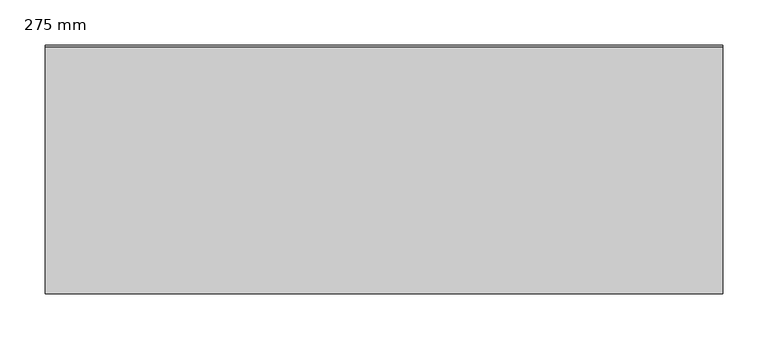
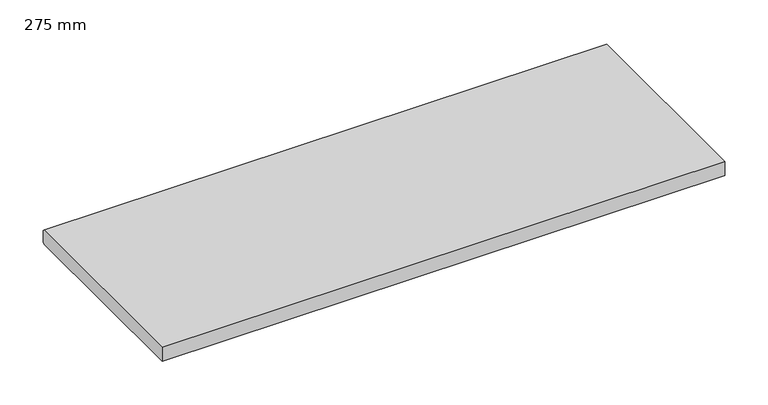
"""IFC4 building model written with IfcOpenShell, lengths in millimetres: proxy geometry, 400_35_NS_vensterbank : 275 mm."""

from ifc_helpers import new_model, si_unit, frame, origin, place, context, project, spatial, polyline, outline, extrude, source, transform, mapped, element, save


def proxy_275_mm_4d599cdf(model_context):
    return source(origin(), model_context, "Body", "SweptSolid", [
        extrude(outline(polyline([(0.0, 0.0), (0.0, 20.0), (273.0, 20.0), (275.0, 18.0), (275.0, 2.0), (273.0, 0.0), (0.0, 0.0)])), frame((-375.0, 0.0, 0.0), z_axis=(1.0, 0.0, 0.0), x_axis=(0.0, 1.0, 0.0)), (0.0, 0.0, 1.0), 750.0),
    ])


if __name__ == "__main__":
    model = new_model("IFC4")
    model_context = context("Model", 3, world=origin())
    ifc_project = project(units=[si_unit("LENGTHUNIT", "METRE", prefix="MILLI")], contexts=[model_context])
    site = spatial("IfcSite", under=ifc_project)
    building = spatial("IfcBuilding", under=site)
    placement = place(None, origin())
    proxy_275_mm_shape = proxy_275_mm_4d599cdf(model_context)
    element("IfcBuildingElementProxy", 1, Name="400_35_NS_vensterbank : 275 mm", ObjectType="400_35_NS_vensterbank : 275 mm", at=placement, inside=building, context=model_context, shape_type="MappedRepresentation", body=[
        mapped(proxy_275_mm_shape, transform((0.0, 0.0, 0.0), x_axis=(1.0, 0.0, 0.0), y_axis=(0.0, 1.0, 0.0), z_axis=(0.0, 0.0, 1.0))),
    ])
    save(model, "model.ifc")
